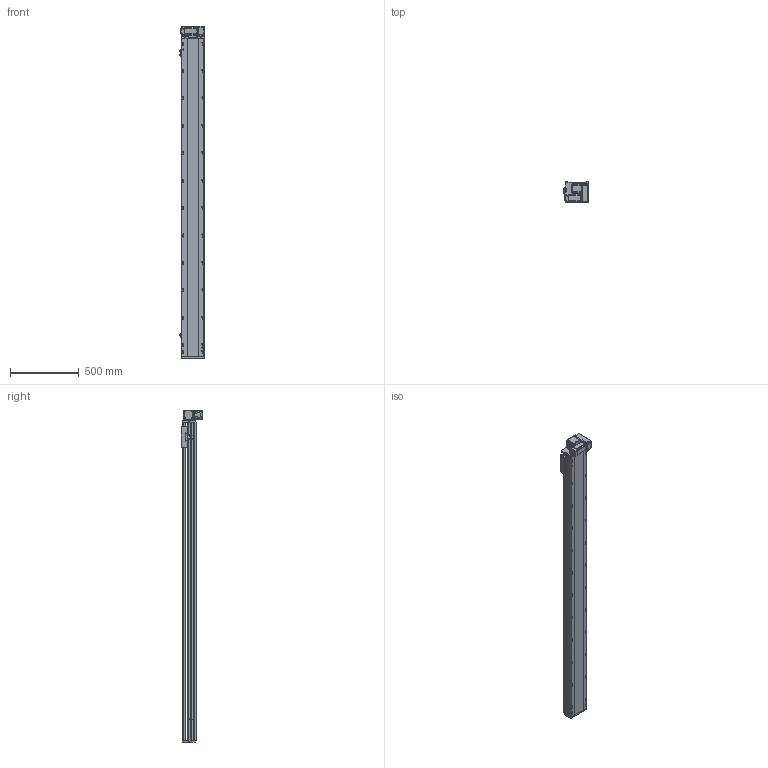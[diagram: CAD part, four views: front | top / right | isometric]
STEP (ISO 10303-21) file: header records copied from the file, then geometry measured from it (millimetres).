
FILE_DESCRIPTION (( 'STEP AP214' ), '1' );
FILE_NAME ('RTB17S-XX-2050-RM-M40-C4.STEP', '2025-12-11T08:25:11', ( '' ), ( '' ), 'SwSTEP 2.0', 'SolidWorks 2018', '' );
FILE_SCHEMA (( 'AUTOMOTIVE_DESIGN' ));
Length unit declared in the file: millimetre
Products named in the file (14): OMRON EE-SX672 传感器^RTB17S-XX-XX-RM-M40-C4; RTB17S-XX-2050-RM-M40-C4; RTB14-L-005P--轴承塑胶压盖^RTB17S-RM-皮带座装配-400W_RTB17S-XX-XX-RM-M40-C4; RTB17-R-011菁釱^RTB17S-XX-XX-RM-M40-C4; RTB14-L-017P^RTB17S-RM-々湍釱蚾饜-400W_RTB17S-XX-XX-RM-M40-C4; RTB14-L-008-M20--萇儂啣^RTB17S-RM-々湍釱蚾饜-400W_RTB17S-XX-XX-RM-M40-C4; RTH13-BL-012覜茼え俋离^RTB17S-XX-XX-RM-M40-C4; RTB17S-L-001耜醱啣^RTB17S-XX-XX-RM-M40-C4; 400W侜督萇儂^RTB17S-XX-XX-RM-M40-C4; RTB14-L-018P^RTB17S-RM-々湍釱蚾饜-400W_RTB17S-XX-XX-RM-M40-C4; RTB17S-L-007奻裔^RTB17S-XX-XX-RM-M40-C4; RTB17S-L-014-T20--々湍釱^RTB17S-RM-々湍釱蚾饜-400W_RTB17S-XX-XX-RM-M40-C4; RTB17S-RM-々湍釱蚾饜-400W^RTB17S-XX-XX-RM-M40-C4; RTB17S-L-004佪裝蹟譫蟀諉釱^RTB17S-XX-XX-RM-M40-C4
Assembly tree (16 placements, depth 3):
  RTB17S-XX-2050-RM-M40-C4
    RTB17-R-011菁釱^RTB17S-XX-XX-RM-M40-C4
    RTB17S-L-007奻裔^RTB17S-XX-XX-RM-M40-C4
    OMRON EE-SX672 传感器^RTB17S-XX-XX-RM-M40-C4  x3
    RTB17S-L-001耜醱啣^RTB17S-XX-XX-RM-M40-C4
    400W侜督萇儂^RTB17S-XX-XX-RM-M40-C4
    RTB17S-L-004佪裝蹟譫蟀諉釱^RTB17S-XX-XX-RM-M40-C4
    RTH13-BL-012覜茼え俋离^RTB17S-XX-XX-RM-M40-C4
    RTB17S-RM-々湍釱蚾饜-400W^RTB17S-XX-XX-RM-M40-C4
      RTB17S-L-014-T20--々湍釱^RTB17S-RM-々湍釱蚾饜-400W_RTB17S-XX-XX-RM-M40-C4
      RTB14-L-005P--轴承塑胶压盖^RTB17S-RM-皮带座装配-400W_RTB17S-XX-XX-RM-M40-C4
      RTB14-L-008-M20--萇儂啣^RTB17S-RM-々湍釱蚾饜-400W_RTB17S-XX-XX-RM-M40-C4
      RTB14-L-017P^RTB17S-RM-々湍釱蚾饜-400W_RTB17S-XX-XX-RM-M40-C4  x2
      RTB14-L-018P^RTB17S-RM-々湍釱蚾饜-400W_RTB17S-XX-XX-RM-M40-C4
Bounding box: 183.5 x 156.5 x 2422.5 mm (x, y, z)
Volume: 20931773.7 mm3; surface area: 2433619.4 mm2
Topology: 15 solids, 15 shells, 2301 faces, 6411 edges, 4185 vertices
Faces by surface type: plane 1080, cylinder 773, bspline 301, cone 139, torus 8
Entity records: 67241 total; most frequent: CARTESIAN_POINT 19016, ORIENTED_EDGE 9666, DIRECTION 8936, EDGE_CURVE 4833, VERTEX_POINT 3173, AXIS2_PLACEMENT_3D 3103, VECTOR 2730, LINE 2730
